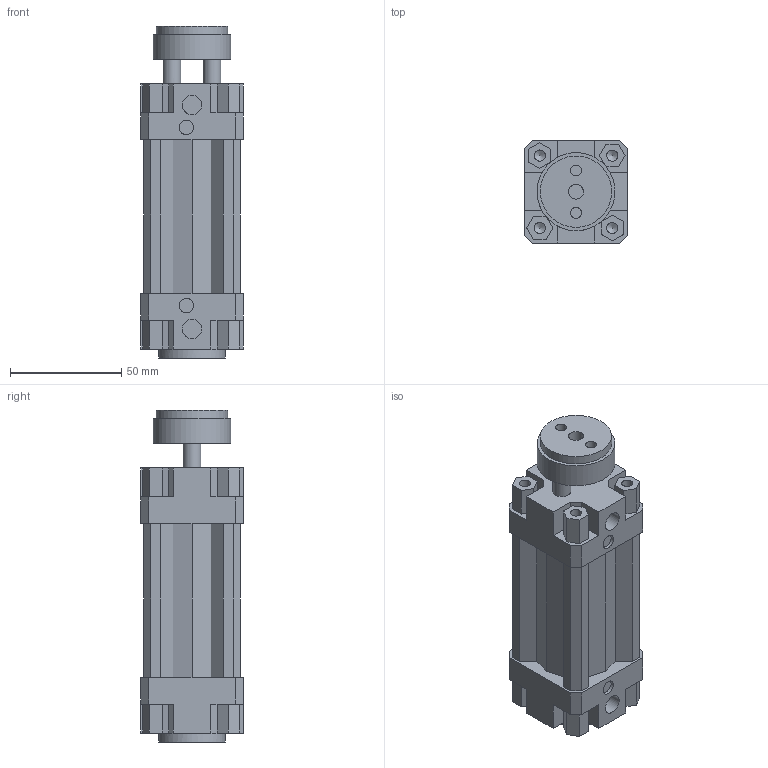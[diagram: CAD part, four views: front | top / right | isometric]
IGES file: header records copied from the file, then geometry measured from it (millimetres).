
Global section: file name: 132#_032_0025_01; native system: Autodesk Inventor 2014; preprocessor: unknown; author: A. Manieri; date: 20161006.154608; units: millimetre
Bounding box: 46 x 46 x 149 mm (x, y, z)
Volume: 188678.6 mm3; surface area: 56573.2 mm2
Topology: 2 solids, 2 shells, 187 faces, 507 edges, 343 vertices
Faces by surface type: bspline 187
